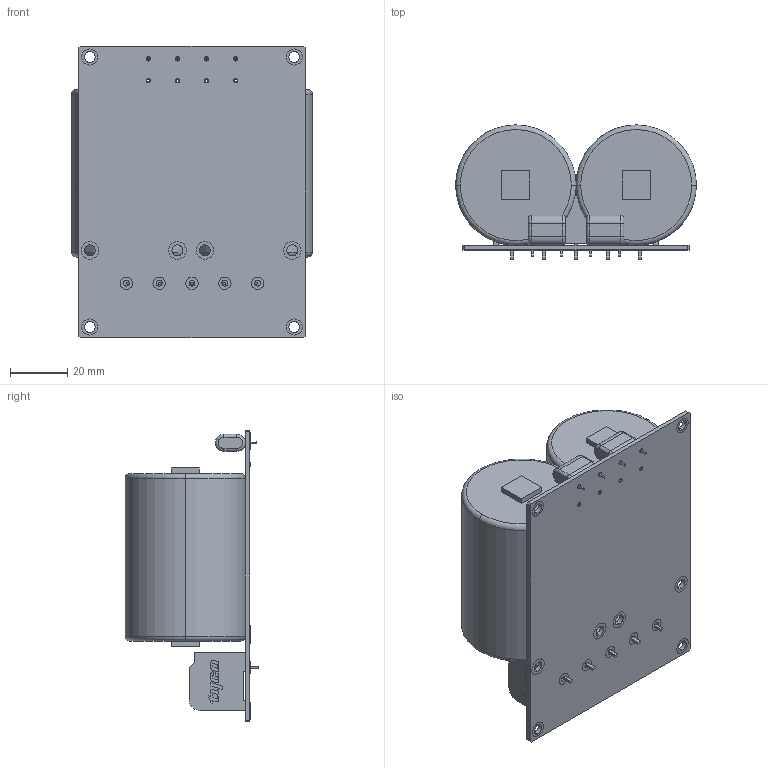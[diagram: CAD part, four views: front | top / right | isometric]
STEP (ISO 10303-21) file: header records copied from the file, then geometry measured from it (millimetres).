
FILE_DESCRIPTION((''),'2;1');
FILE_NAME('AMC_CAD_FC_FC15030_ASM','2019-06-04T',('SYSTEM'),(''),'PRO/ENGINEER BY PARAMETRIC TECHNOLOGY CORPORATION, 2016360','PRO/ENGINEER BY PARAMETRIC TECHNOLOGY CORPORATION, 2016360','');
FILE_SCHEMA(('AUTOMOTIVE_DESIGN { 1 0 10303 214 1 1 1 1 }'));
Length unit declared in the file: inch
Products named in the file (8): P1-2-SOLID1; CF2-2-SOLID1; PCB-2-SOLID1; CF4-3-SOLID1; L1-2-SOLID1; L2-3-SOLID1; ASM0001_ASM; AMC_CAD_FC_FC15030_ASM
Assembly tree (7 placements, depth 3):
  AMC_CAD_FC_FC15030_ASM
    ASM0001_ASM
      P1-2-SOLID1
      CF2-2-SOLID1
      PCB-2-SOLID1
      CF4-3-SOLID1
      L1-2-SOLID1
      L2-3-SOLID1
Bounding box: 83.82 x 46.61 x 101.6 mm (x, y, z)
Volume: 188987.6 mm3; surface area: 47280 mm2
Topology: 6 solids, 6 shells, 726 faces, 1884 edges, 1250 vertices
Faces by surface type: plane 499, cylinder 206, torus 16, sphere 5
Entity records: 33025 total; most frequent: CARTESIAN_POINT 4000, DIRECTION 3814, ORIENTED_EDGE 3768, PRESENTATION_STYLE_ASSIGNMENT 2520, STYLED_ITEM 1890, CURVE_STYLE 1884, EDGE_CURVE 1884, VECTOR 1432
